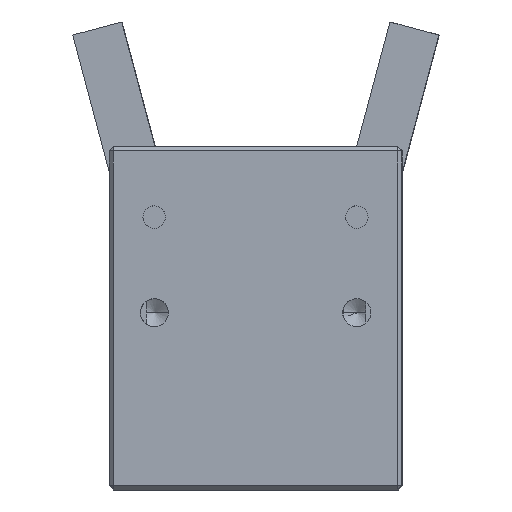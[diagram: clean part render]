
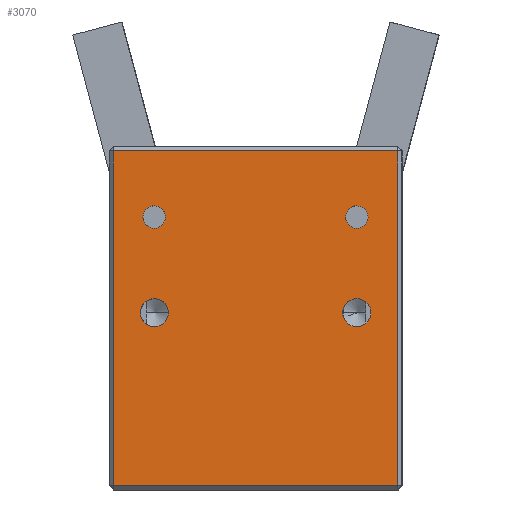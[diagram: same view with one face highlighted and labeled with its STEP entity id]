
A CAD part, left-side view. The second image highlights one B-rep face of the part: STEP entity #3070.
In plain terms, the highlighted planar face has unit normal (-1, 0.005, 0).
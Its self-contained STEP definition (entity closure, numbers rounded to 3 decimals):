
#324 = EDGE_CURVE ( 'NONE', #350, #326, #6640, .T. ) ;
#326 = VERTEX_POINT ( 'NONE', #6667 ) ;
#350 = VERTEX_POINT ( 'NONE', #6718 ) ;
#422 = VERTEX_POINT ( 'NONE', #6868 ) ;
#424 = EDGE_CURVE ( 'NONE', #422, #428, #6860, .T. ) ;
#428 = VERTEX_POINT ( 'NONE', #6864 ) ;
#3041 = EDGE_LOOP ( 'NONE', ( #3042, #3056, #3052, #3064 ) ) ;
#3042 = ORIENTED_EDGE ( 'NONE', *, *, #3058, .T. ) ;
#3045 = EDGE_CURVE ( 'NONE', #428, #422, #17033, .T. ) ;
#3048 = ORIENTED_EDGE ( 'NONE', *, *, #424, .F. ) ;
#3049 = VERTEX_POINT ( 'NONE', #17010 ) ;
#3052 = ORIENTED_EDGE ( 'NONE', *, *, #3163, .T. ) ;
#3053 = VERTEX_POINT ( 'NONE', #17051 ) ;
#3056 = ORIENTED_EDGE ( 'NONE', *, *, #3062, .T. ) ;
#3058 = EDGE_CURVE ( 'NONE', #3049, #3053, #17048, .T. ) ;
#3060 = VERTEX_POINT ( 'NONE', #17056 ) ;
#3062 = EDGE_CURVE ( 'NONE', #3053, #3085, #17059, .T. ) ;
#3064 = ORIENTED_EDGE ( 'NONE', *, *, #3168, .T. ) ;
#3065 = EDGE_CURVE ( 'NONE', #5459, #5456, #17103, .T. ) ;
#3066 = ORIENTED_EDGE ( 'NONE', *, *, #3078, .T. ) ;
#3070 = ADVANCED_FACE ( 'NONE', ( #17091, #17039, #17095, #17094, #17093 ), #17102, .F. ) ;
#3073 = ORIENTED_EDGE ( 'NONE', *, *, #5452, .T. ) ;
#3074 = ORIENTED_EDGE ( 'NONE', *, *, #3082, .F. ) ;
#3076 = EDGE_LOOP ( 'NONE', ( #3074, #3197 ) ) ;
#3078 = EDGE_CURVE ( 'NONE', #5527, #5526, #17081, .T. ) ;
#3079 = ORIENTED_EDGE ( 'NONE', *, *, #5461, .T. ) ;
#3080 = EDGE_LOOP ( 'NONE', ( #3081, #3048 ) ) ;
#3081 = ORIENTED_EDGE ( 'NONE', *, *, #3045, .F. ) ;
#3082 = EDGE_CURVE ( 'NONE', #326, #350, #17074, .T. ) ;
#3085 = VERTEX_POINT ( 'NONE', #17136 ) ;
#3093 = EDGE_LOOP ( 'NONE', ( #3111, #3073 ) ) ;
#3111 = ORIENTED_EDGE ( 'NONE', *, *, #3065, .T. ) ;
#3114 = EDGE_LOOP ( 'NONE', ( #3066, #3079 ) ) ;
#3163 = EDGE_CURVE ( 'NONE', #3085, #3060, #16744, .T. ) ;
#3168 = EDGE_CURVE ( 'NONE', #3060, #3049, #17267, .T. ) ;
#3197 = ORIENTED_EDGE ( 'NONE', *, *, #324, .F. ) ;
#5452 = EDGE_CURVE ( 'NONE', #5456, #5459, #25435, .T. ) ;
#5456 = VERTEX_POINT ( 'NONE', #25485 ) ;
#5459 = VERTEX_POINT ( 'NONE', #25447 ) ;
#5461 = EDGE_CURVE ( 'NONE', #5526, #5527, #25478, .T. ) ;
#5526 = VERTEX_POINT ( 'NONE', #25640 ) ;
#5527 = VERTEX_POINT ( 'NONE', #25574 ) ;
#6640 = CIRCLE ( 'NONE', #6663, 2.5 ) ;
#6650 = CARTESIAN_POINT ( 'NONE',  ( 0.23, 43.999, 31.5 ) ) ;
#6663 = AXIS2_PLACEMENT_3D ( 'NONE', #6650, #6698, #6697 ) ;
#6667 = CARTESIAN_POINT ( 'NONE',  ( 0.217, 41.499, 31.5 ) ) ;
#6697 = DIRECTION ( 'NONE',  ( -0.005, -1., 0. ) ) ;
#6698 = DIRECTION ( 'NONE',  ( -1., 0.005, 0. ) ) ;
#6718 = CARTESIAN_POINT ( 'NONE',  ( 0.243, 46.499, 31.5 ) ) ;
#6852 = DIRECTION ( 'NONE',  ( -0.005, -1., 0. ) ) ;
#6853 = DIRECTION ( 'NONE',  ( -1., 0.005, 0. ) ) ;
#6854 = CARTESIAN_POINT ( 'NONE',  ( 0.042, 8., 31.5 ) ) ;
#6855 = AXIS2_PLACEMENT_3D ( 'NONE', #6854, #6853, #6852 ) ;
#6860 = CIRCLE ( 'NONE', #6855, 2.5 ) ;
#6864 = CARTESIAN_POINT ( 'NONE',  ( 0.029, 5.5, 31.5 ) ) ;
#6868 = CARTESIAN_POINT ( 'NONE',  ( 0.055, 10.5, 31.5 ) ) ;
#16743 = CARTESIAN_POINT ( 'NONE',  ( 0., 0., 0.75 ) ) ;
#16744 = LINE ( 'NONE', #16743, #17233 ) ;
#16982 = DIRECTION ( 'NONE',  ( -1., 0.005, 0. ) ) ;
#17009 = CARTESIAN_POINT ( 'NONE',  ( 0.042, 8., 31.5 ) ) ;
#17010 = CARTESIAN_POINT ( 'NONE',  ( 0.004, 0.75, 60.25 ) ) ;
#17031 = AXIS2_PLACEMENT_3D ( 'NONE', #17009, #16982, #17060 ) ;
#17033 = CIRCLE ( 'NONE', #17031, 2.5 ) ;
#17038 = CARTESIAN_POINT ( 'NONE',  ( 0.268, 51.249, 61. ) ) ;
#17039 = FACE_BOUND ( 'NONE', #3114, .T. ) ;
#17044 = CARTESIAN_POINT ( 'NONE',  ( 0.042, 8., 48.5 ) ) ;
#17045 = DIRECTION ( 'NONE',  ( 0.005, 1., 0. ) ) ;
#17046 = VECTOR ( 'NONE', #17045, 1000. ) ;
#17047 = CARTESIAN_POINT ( 'NONE',  ( 0., 0., 60.25 ) ) ;
#17048 = LINE ( 'NONE', #17047, #17046 ) ;
#17049 = AXIS2_PLACEMENT_3D ( 'NONE', #17044, #17090, #17089 ) ;
#17051 = CARTESIAN_POINT ( 'NONE',  ( 0.268, 51.249, 60.25 ) ) ;
#17056 = CARTESIAN_POINT ( 'NONE',  ( 0.004, 0.75, 0.75 ) ) ;
#17059 = LINE ( 'NONE', #17038, #17101 ) ;
#17060 = DIRECTION ( 'NONE',  ( -0.005, -1., 0. ) ) ;
#17074 = CIRCLE ( 'NONE', #17130, 2.5 ) ;
#17075 = AXIS2_PLACEMENT_3D ( 'NONE', #17135, #17134, #17133 ) ;
#17081 = CIRCLE ( 'NONE', #17075, 2. ) ;
#17082 = CARTESIAN_POINT ( 'NONE',  ( 0.23, 43.999, 31.5 ) ) ;
#17083 = DIRECTION ( 'NONE',  ( 0.005, 1., 0. ) ) ;
#17084 = DIRECTION ( 'NONE',  ( 1., -0.005, 0. ) ) ;
#17085 = CARTESIAN_POINT ( 'NONE',  ( 0., 0., 61. ) ) ;
#17086 = AXIS2_PLACEMENT_3D ( 'NONE', #17085, #17084, #17083 ) ;
#17089 = DIRECTION ( 'NONE',  ( 0.005, 1., 0. ) ) ;
#17090 = DIRECTION ( 'NONE',  ( 1., -0.005, 0. ) ) ;
#17091 = FACE_BOUND ( 'NONE', #3093, .T. ) ;
#17093 = FACE_OUTER_BOUND ( 'NONE', #3041, .T. ) ;
#17094 = FACE_BOUND ( 'NONE', #3080, .T. ) ;
#17095 = FACE_BOUND ( 'NONE', #3076, .T. ) ;
#17100 = DIRECTION ( 'NONE',  ( 0., 0., -1. ) ) ;
#17101 = VECTOR ( 'NONE', #17100, 1000. ) ;
#17102 = PLANE ( 'NONE',  #17086 ) ;
#17103 = CIRCLE ( 'NONE', #17049, 2. ) ;
#17128 = DIRECTION ( 'NONE',  ( -0.005, -1., 0. ) ) ;
#17129 = DIRECTION ( 'NONE',  ( -1., 0.005, 0. ) ) ;
#17130 = AXIS2_PLACEMENT_3D ( 'NONE', #17082, #17129, #17128 ) ;
#17133 = DIRECTION ( 'NONE',  ( 0.005, 1., 0. ) ) ;
#17134 = DIRECTION ( 'NONE',  ( 1., -0.005, 0. ) ) ;
#17135 = CARTESIAN_POINT ( 'NONE',  ( 0.23, 43.999, 48.5 ) ) ;
#17136 = CARTESIAN_POINT ( 'NONE',  ( 0.268, 51.249, 0.75 ) ) ;
#17208 = DIRECTION ( 'NONE',  ( -0.005, -1., 0. ) ) ;
#17233 = VECTOR ( 'NONE', #17208, 1000. ) ;
#17239 = VECTOR ( 'NONE', #17261, 1000. ) ;
#17261 = DIRECTION ( 'NONE',  ( 0., 0., 1. ) ) ;
#17262 = CARTESIAN_POINT ( 'NONE',  ( 0.004, 0.75, 61. ) ) ;
#17267 = LINE ( 'NONE', #17262, #17239 ) ;
#25435 = CIRCLE ( 'NONE', #25437, 2. ) ;
#25437 = AXIS2_PLACEMENT_3D ( 'NONE', #25438, #25484, #25483 ) ;
#25438 = CARTESIAN_POINT ( 'NONE',  ( 0.042, 8., 48.5 ) ) ;
#25447 = CARTESIAN_POINT ( 'NONE',  ( 0.052, 10., 48.5 ) ) ;
#25474 = DIRECTION ( 'NONE',  ( 0.005, 1., 0. ) ) ;
#25475 = DIRECTION ( 'NONE',  ( 1., -0.005, 0. ) ) ;
#25476 = AXIS2_PLACEMENT_3D ( 'NONE', #25480, #25475, #25474 ) ;
#25478 = CIRCLE ( 'NONE', #25476, 2. ) ;
#25480 = CARTESIAN_POINT ( 'NONE',  ( 0.23, 43.999, 48.5 ) ) ;
#25483 = DIRECTION ( 'NONE',  ( 0.005, 1., 0. ) ) ;
#25484 = DIRECTION ( 'NONE',  ( 1., -0.005, 0. ) ) ;
#25485 = CARTESIAN_POINT ( 'NONE',  ( 0.031, 6., 48.5 ) ) ;
#25574 = CARTESIAN_POINT ( 'NONE',  ( 0.241, 45.999, 48.5 ) ) ;
#25640 = CARTESIAN_POINT ( 'NONE',  ( 0.22, 41.999, 48.5 ) ) ;
